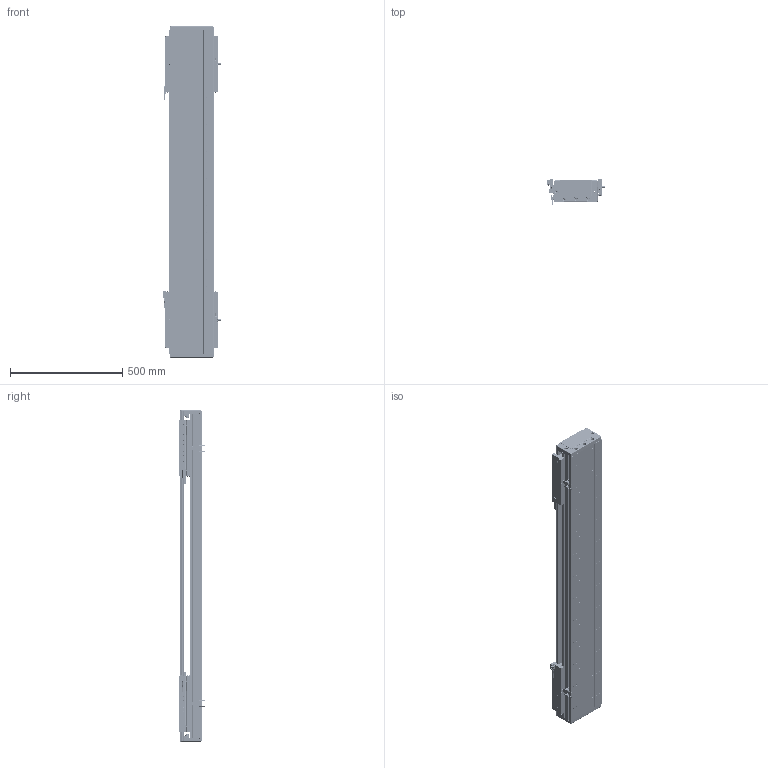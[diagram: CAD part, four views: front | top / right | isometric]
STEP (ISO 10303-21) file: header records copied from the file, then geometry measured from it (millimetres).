
FILE_DESCRIPTION (( 'STEP AP203' ), '1' );
FILE_NAME ('DA-C195-2-C3-T860-C010-0.2 眻盄萇儂.STEP', '2025-08-14T02:27:55', ( '' ), ( '' ), 'SwSTEP 2.0', 'SolidWorks 2019', '' );
FILE_SCHEMA (( 'CONFIG_CONTROL_DESIGN' ));
Length unit declared in the file: millimetre
Products named in the file (16): IU-CU195-L-00 菁釱(L1440); PM-T45ㄗ侂狟ㄘ; MS200 棠掑喜S315-T240; DA195-DG-H-00  端盖（压铸镂空版）; DA-C195-2-C3-T860-C010-0.2 眻盄萇儂; LMT黍杅芛; IU-CU195-L 菁釱絳寢; DKW-KGZ-ZJ-00 中间光电开关支架; CU195-C3賑輸-俋楷; DA95-HXJ-00 遣喳砎蝶; DKW168-HXJ-ZJ-00 笢潔滅袉砎蝶; DA165-GYP-00 光电感应片(默认); 葩璃 DA95-GT-T-00; DKW-GYP-ZJ-00 笢潔嫖萇覜茼え; 66156-0001-003-00 裔啣; PM-Y65嫖萇羲壽郪璃
Assembly tree (28 placements, depth 3):
  DA-C195-2-C3-T860-C010-0.2 眻盄萇儂
    IU-CU195-L 菁釱絳寢
      IU-CU195-L-00 菁釱(L1440)
      葩璃 DA95-GT-T-00  x4
    LMT黍杅芛  x2
    MS200 棠掑喜S315-T240
    PM-T45ㄗ侂狟ㄘ  x4
    DA165-GYP-00 光电感应片(默认)  x2
    DA195-DG-H-00  端盖（压铸镂空版）  x2
    DA95-HXJ-00 遣喳砎蝶  x4
    PM-Y65嫖萇羲壽郪璃
    66156-0001-003-00 裔啣
    DKW168-HXJ-ZJ-00 笢潔滅袉砎蝶
    DKW-GYP-ZJ-00 笢潔嫖萇覜茼え
    DKW-KGZ-ZJ-00 中间光电开关支架
    CU195-C3賑輸-俋楷  x2
Bounding box: 258.2 x 115.6 x 1480 mm (x, y, z)
Volume: 12015673.2 mm3; surface area: 3306594.5 mm2
Topology: 146 solids, 218 shells, 7870 faces, 20032 edges, 12215 vertices
Faces by surface type: cylinder 3296, plane 2790, cone 914, bspline 718, torus 80, sphere 72
Entity records: 160327 total; most frequent: CARTESIAN_POINT 49378, ORIENTED_EDGE 23250, DIRECTION 21992, EDGE_CURVE 11625, AXIS2_PLACEMENT_3D 8031, VERTEX_POINT 7368, VECTOR 5930, LINE 5930
